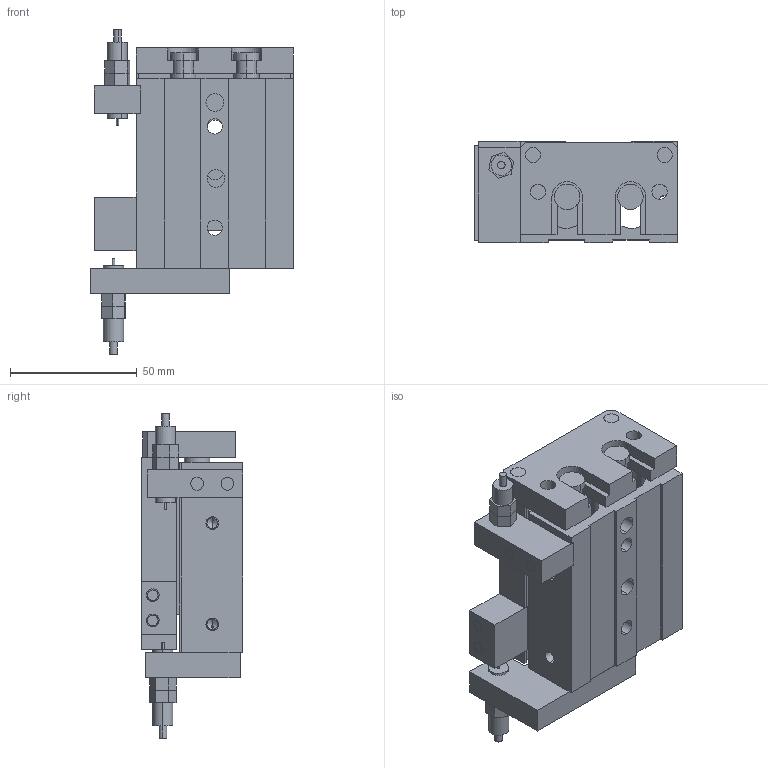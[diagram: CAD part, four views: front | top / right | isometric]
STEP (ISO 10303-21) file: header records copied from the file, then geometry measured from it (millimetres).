
FILE_DESCRIPTION (( 'STEP AP203' ), '1' );
FILE_NAME ('GDX 16-30.STEP', '2013-02-25T13:05:21', ( 'Conseil Régional Haute-Normandie' ), ( 'Conseil Régional Haute-Normandie' ), 'SwSTEP 2.0', 'SolidWorks 2010', '' );
FILE_SCHEMA (( 'CONFIG_CONTROL_DESIGN' ));
Length unit declared in the file: millimetre
Products named in the file (14): GDX25-10 Pièce14_Default; GDX 16-30; Pièce 4 GDX16-10; Pièce1 GDX 16-30_Default; Pièce12 GDX16-10_Default; Pièce11 GDX16-10_Default; Pièce10 GDX16-10_Default; Pièce9 GDX16-10_Default; Pièce8 GDX16-10_Default; Pièce7 GDX16-10_Default; Pièce6 GDX16-10_Default; Pièce5 GDX16-10_Default; Pièce3 GDX16-10_Default; Pièce2 GDX16-10_Default
Assembly tree (27 placements, depth 2):
  GDX 16-30
    GDX25-10 Pièce14_Default  x2
    Pièce12 GDX16-10_Default  x4
    Pièce10 GDX16-10_Default  x8
    Pièce2 GDX16-10_Default  x2
    Pièce9 GDX16-10_Default
    Pièce7 GDX16-10_Default
    Pièce3 GDX16-10_Default
    Pièce11 GDX16-10_Default  x2
    Pièce 4 GDX16-10
    Pièce8 GDX16-10_Default
    Pièce5 GDX16-10_Default  x2
    Pièce6 GDX16-10_Default
    Pièce1 GDX 16-30_Default
Bounding box: 80 x 40 x 128.21 mm (x, y, z)
Volume: 180928.8 mm3; surface area: 78606.7 mm2
Topology: 27 solids, 27 shells, 742 faces, 1866 edges, 1224 vertices
Faces by surface type: plane 397, cylinder 188, bspline 133, cone 24
Entity records: 31114 total; most frequent: CARTESIAN_POINT 14588, ORIENTED_EDGE 3192, DIRECTION 2630, EDGE_CURVE 1596, LINE 1062, VECTOR 1062, VERTEX_POINT 1060, AXIS2_PLACEMENT_3D 784
